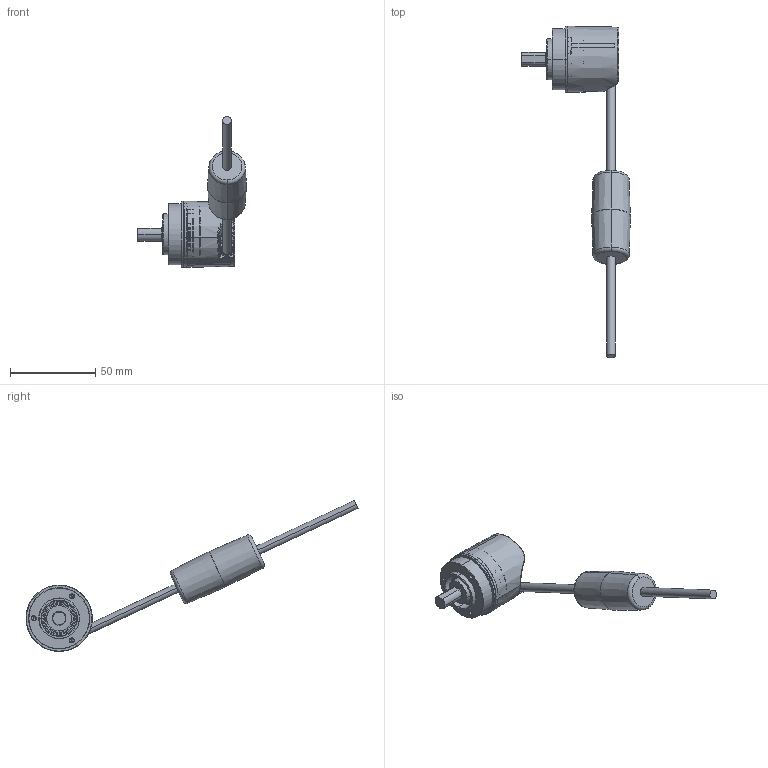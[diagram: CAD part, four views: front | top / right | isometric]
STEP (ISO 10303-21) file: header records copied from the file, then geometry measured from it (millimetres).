
FILE_DESCRIPTION (( 'STEP AP203' ), '1' );
FILE_NAME ('8.F3668.3321.XXXX.STEP', '2013-07-30T06:02:24', ( 'LauferA' ), ( 'Microsoft' ), 'SwSTEP 2.0', 'SolidWorks 2012', '' );
FILE_SCHEMA (( 'CONFIG_CONTROL_DESIGN' ));
Length unit declared in the file: millimetre
Products named in the file (1): 8.F3668.3321.XXXX
Bounding box: 64.2 x 195.18 x 88.76 mm (x, y, z)
Volume: 30065.4 mm3; surface area: 31952.1 mm2
Topology: 21 solids, 22 shells, 846 faces, 1993 edges, 1182 vertices
Faces by surface type: cylinder 206, bspline 183, torus 146, cone 141, plane 138, sphere 32
Entity records: 28096 total; most frequent: CARTESIAN_POINT 9957, ORIENTED_EDGE 3836, DIRECTION 3773, EDGE_CURVE 1918, AXIS2_PLACEMENT_3D 1647, VERTEX_POINT 1146, CIRCLE 983, EDGE_LOOP 894
